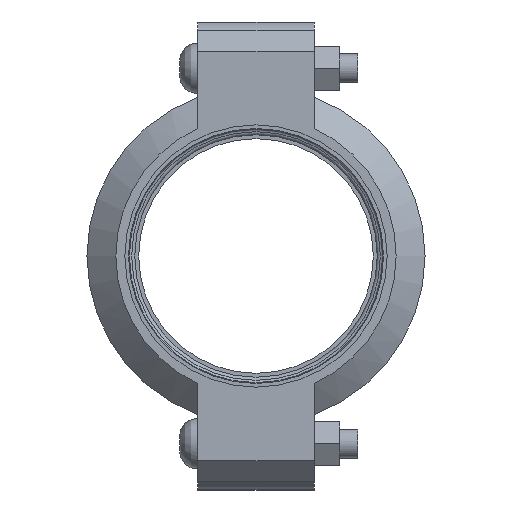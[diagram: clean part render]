
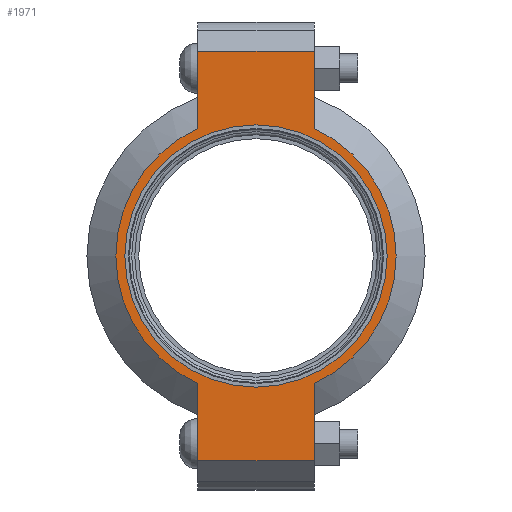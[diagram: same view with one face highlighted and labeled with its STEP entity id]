
A CAD part, left-side view. The second image highlights one B-rep face of the part: STEP entity #1971.
In plain terms, the highlighted planar face has unit normal (-1, 0, 0) as drawn and (0, 0, 1) by its records, which use the part's own axes.
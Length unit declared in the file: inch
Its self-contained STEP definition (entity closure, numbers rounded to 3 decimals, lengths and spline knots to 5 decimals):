
#160=LINE('',#3493,#257);
#168=LINE('',#3529,#265);
#175=LINE('',#3550,#272);
#184=LINE('',#3582,#281);
#185=LINE('',#3586,#282);
#186=LINE('',#3588,#283);
#257=VECTOR('',#2845,0.3937);
#265=VECTOR('',#2861,0.3937);
#272=VECTOR('',#2880,0.3937);
#281=VECTOR('',#2905,0.3937);
#282=VECTOR('',#2910,0.3937);
#283=VECTOR('',#2911,0.3937);
#339=FACE_BOUND('',#589,.T.);
#383=PLANE('',#2310);
#471=FACE_OUTER_BOUND('',#588,.T.);
#588=EDGE_LOOP('',(#1692,#1693,#1694,#1695,#1696,#1697,#1698,#1699));
#589=EDGE_LOOP('',(#1700));
#761=CIRCLE('',#2311,2.405);
#762=CIRCLE('',#2312,2.405);
#763=CIRCLE('',#2313,2.25);
#925=VERTEX_POINT('',#3490);
#926=VERTEX_POINT('',#3492);
#937=VERTEX_POINT('',#3524);
#938=VERTEX_POINT('',#3528);
#945=VERTEX_POINT('',#3547);
#946=VERTEX_POINT('',#3549);
#956=VERTEX_POINT('',#3585);
#957=VERTEX_POINT('',#3587);
#958=VERTEX_POINT('',#3590);
#1170=EDGE_CURVE('',#926,#925,#160,.T.);
#1184=EDGE_CURVE('',#938,#937,#168,.T.);
#1194=EDGE_CURVE('',#946,#945,#175,.T.);
#1209=EDGE_CURVE('',#938,#925,#184,.T.);
#1210=EDGE_CURVE('',#937,#946,#761,.T.);
#1211=EDGE_CURVE('',#956,#945,#185,.T.);
#1212=EDGE_CURVE('',#956,#957,#186,.T.);
#1213=EDGE_CURVE('',#957,#926,#762,.T.);
#1214=EDGE_CURVE('',#958,#958,#763,.T.);
#1692=ORIENTED_EDGE('',*,*,#1209,.F.);
#1693=ORIENTED_EDGE('',*,*,#1184,.T.);
#1694=ORIENTED_EDGE('',*,*,#1210,.T.);
#1695=ORIENTED_EDGE('',*,*,#1194,.T.);
#1696=ORIENTED_EDGE('',*,*,#1211,.F.);
#1697=ORIENTED_EDGE('',*,*,#1212,.T.);
#1698=ORIENTED_EDGE('',*,*,#1213,.T.);
#1699=ORIENTED_EDGE('',*,*,#1170,.T.);
#1700=ORIENTED_EDGE('',*,*,#1214,.T.);
#1971=ADVANCED_FACE('',(#471,#339),#383,.T.);
#2310=AXIS2_PLACEMENT_3D('',#3583,#2906,#2907);
#2311=AXIS2_PLACEMENT_3D('',#3584,#2908,#2909);
#2312=AXIS2_PLACEMENT_3D('',#3589,#2912,#2913);
#2313=AXIS2_PLACEMENT_3D('',#3591,#2914,#2915);
#2845=DIRECTION('',(1.,0.,0.));
#2861=DIRECTION('',(-1.,0.,0.));
#2880=DIRECTION('',(-1.,0.,0.));
#2905=DIRECTION('',(0.,-1.,0.));
#2906=DIRECTION('center_axis',(0.,0.,1.));
#2907=DIRECTION('ref_axis',(-1.,0.,0.));
#2908=DIRECTION('center_axis',(0.,0.,1.));
#2909=DIRECTION('ref_axis',(1.,0.,0.));
#2910=DIRECTION('',(0.,1.,0.));
#2911=DIRECTION('',(1.,0.,0.));
#2912=DIRECTION('center_axis',(0.,0.,1.));
#2913=DIRECTION('ref_axis',(1.,0.,0.));
#2914=DIRECTION('center_axis',(0.,0.,-1.));
#2915=DIRECTION('ref_axis',(1.,0.,0.));
#3490=CARTESIAN_POINT('',(3.515,-1.,1.065));
#3492=CARTESIAN_POINT('',(2.18724,-1.,1.065));
#3493=CARTESIAN_POINT('',(4.015,-1.,1.065));
#3524=CARTESIAN_POINT('',(2.18724,1.,1.065));
#3528=CARTESIAN_POINT('',(3.515,1.,1.065));
#3529=CARTESIAN_POINT('',(-4.015,1.,1.065));
#3547=CARTESIAN_POINT('',(-3.515,1.,1.065));
#3549=CARTESIAN_POINT('',(-2.18724,1.,1.065));
#3550=CARTESIAN_POINT('',(-4.015,1.,1.065));
#3582=CARTESIAN_POINT('',(3.515,-0.5,1.065));
#3583=CARTESIAN_POINT('Origin',(0.,0.,
1.065));
#3584=CARTESIAN_POINT('Origin',(0.,0.,1.065));
#3585=CARTESIAN_POINT('',(-3.515,-1.,1.065));
#3586=CARTESIAN_POINT('',(-3.515,0.5,1.065));
#3587=CARTESIAN_POINT('',(-2.18724,-1.,1.065));
#3588=CARTESIAN_POINT('',(4.015,-1.,1.065));
#3589=CARTESIAN_POINT('Origin',(0.,0.,1.065));
#3590=CARTESIAN_POINT('',(-2.25,0.,1.065));
#3591=CARTESIAN_POINT('Origin',(0.,0.,1.065));
